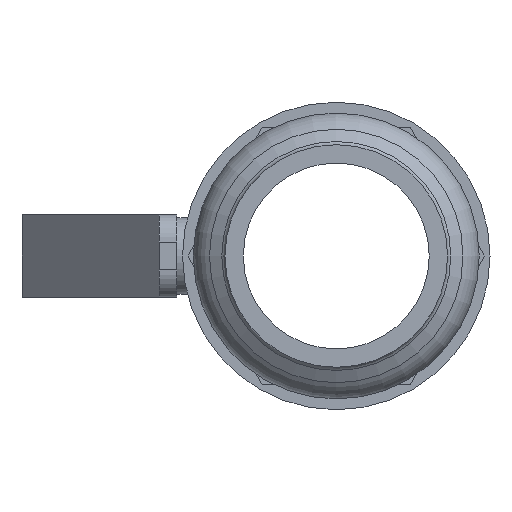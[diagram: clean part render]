
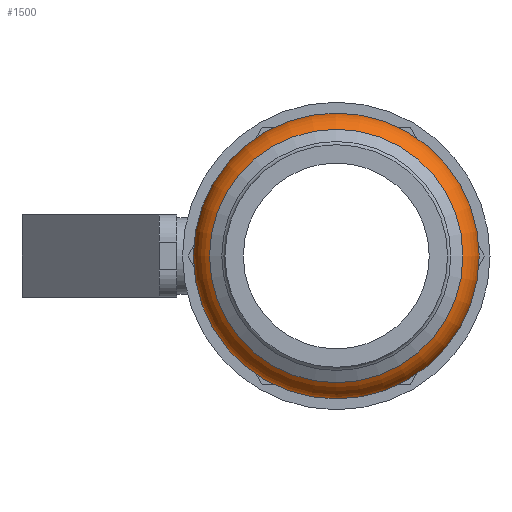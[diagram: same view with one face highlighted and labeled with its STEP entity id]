
A CAD part, left-side view. The second image highlights one B-rep face of the part: STEP entity #1500.
In plain terms, the highlighted toroidal (fillet/blend) face has major radius 12.522 mm and minor radius 3.886 mm.
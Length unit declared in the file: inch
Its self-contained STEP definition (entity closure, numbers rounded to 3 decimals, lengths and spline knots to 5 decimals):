
#322=FACE_OUTER_BOUND('',#396,.T.);
#396=EDGE_LOOP('',(#1131,#1132,#1133,#1134,#1135,#1136,#1137,#1138));
#531=CIRCLE('',#1672,0.57251);
#532=CIRCLE('',#1673,0.57251);
#533=CIRCLE('',#1674,0.57251);
#534=CIRCLE('',#1676,0.57251);
#535=CIRCLE('',#1677,0.57251);
#536=CIRCLE('',#1678,0.57251);
#537=CIRCLE('',#1679,0.153);
#647=VERTEX_POINT('',#2480);
#648=VERTEX_POINT('',#2481);
#649=VERTEX_POINT('',#2483);
#650=VERTEX_POINT('',#2488);
#651=VERTEX_POINT('',#2489);
#652=VERTEX_POINT('',#2491);
#824=EDGE_CURVE('',#647,#648,#531,.T.);
#825=EDGE_CURVE('',#649,#647,#532,.T.);
#827=EDGE_CURVE('',#648,#649,#533,.T.);
#828=EDGE_CURVE('',#650,#651,#534,.T.);
#829=EDGE_CURVE('',#652,#650,#535,.T.);
#830=EDGE_CURVE('',#651,#652,#536,.T.);
#831=EDGE_CURVE('',#651,#648,#537,.T.);
#1131=ORIENTED_EDGE('',*,*,#828,.F.);
#1132=ORIENTED_EDGE('',*,*,#829,.F.);
#1133=ORIENTED_EDGE('',*,*,#830,.F.);
#1134=ORIENTED_EDGE('',*,*,#831,.T.);
#1135=ORIENTED_EDGE('',*,*,#827,.T.);
#1136=ORIENTED_EDGE('',*,*,#825,.T.);
#1137=ORIENTED_EDGE('',*,*,#824,.T.);
#1138=ORIENTED_EDGE('',*,*,#831,.F.);
#1400=TOROIDAL_SURFACE('',#1675,0.493,0.153);
#1500=ADVANCED_FACE('',(#322),#1400,.T.);
#1672=AXIS2_PLACEMENT_3D('',#2482,#2000,#2001);
#1673=AXIS2_PLACEMENT_3D('',#2484,#2002,#2003);
#1674=AXIS2_PLACEMENT_3D('',#2486,#2005,#2006);
#1675=AXIS2_PLACEMENT_3D('',#2487,#2007,#2008);
#1676=AXIS2_PLACEMENT_3D('',#2490,#2009,#2010);
#1677=AXIS2_PLACEMENT_3D('',#2492,#2011,#2012);
#1678=AXIS2_PLACEMENT_3D('',#2493,#2013,#2014);
#1679=AXIS2_PLACEMENT_3D('',#2494,#2015,#2016);
#2000=DIRECTION('center_axis',(1.,0.,0.));
#2001=DIRECTION('ref_axis',(0.,0.,-1.));
#2002=DIRECTION('center_axis',(1.,0.,0.));
#2003=DIRECTION('ref_axis',(0.,0.,-1.));
#2005=DIRECTION('center_axis',(1.,0.,0.));
#2006=DIRECTION('ref_axis',(0.,0.,-1.));
#2007=DIRECTION('center_axis',(1.,0.,0.));
#2008=DIRECTION('ref_axis',(0.,0.,-1.));
#2009=DIRECTION('center_axis',(1.,0.,0.));
#2010=DIRECTION('ref_axis',(0.,0.,-1.));
#2011=DIRECTION('center_axis',(1.,0.,0.));
#2012=DIRECTION('ref_axis',(0.,0.,-1.));
#2013=DIRECTION('center_axis',(1.,0.,0.));
#2014=DIRECTION('ref_axis',(0.,0.,-1.));
#2015=DIRECTION('center_axis',(0.,-1.,0.));
#2016=DIRECTION('ref_axis',(0.,0.,1.));
#2480=CARTESIAN_POINT('',(-4.25172,0.57251,0.));
#2481=CARTESIAN_POINT('',(-4.25172,0.,0.57251));
#2482=CARTESIAN_POINT('Origin',(-4.25172,0.,
0.));
#2483=CARTESIAN_POINT('',(-4.25172,-0.57251,0.));
#2484=CARTESIAN_POINT('Origin',(-4.25172,0.,
0.));
#2486=CARTESIAN_POINT('Origin',(-4.25172,0.,
0.));
#2487=CARTESIAN_POINT('Origin',(-4.121,0.,0.));
#2488=CARTESIAN_POINT('',(-3.99028,0.57251,0.));
#2489=CARTESIAN_POINT('',(-3.99028,0.,0.57251));
#2490=CARTESIAN_POINT('Origin',(-3.99028,0.,
0.));
#2491=CARTESIAN_POINT('',(-3.99028,-0.57251,0.));
#2492=CARTESIAN_POINT('Origin',(-3.99028,0.,
0.));
#2493=CARTESIAN_POINT('Origin',(-3.99028,0.,
0.));
#2494=CARTESIAN_POINT('Origin',(-4.121,0.,0.493));
